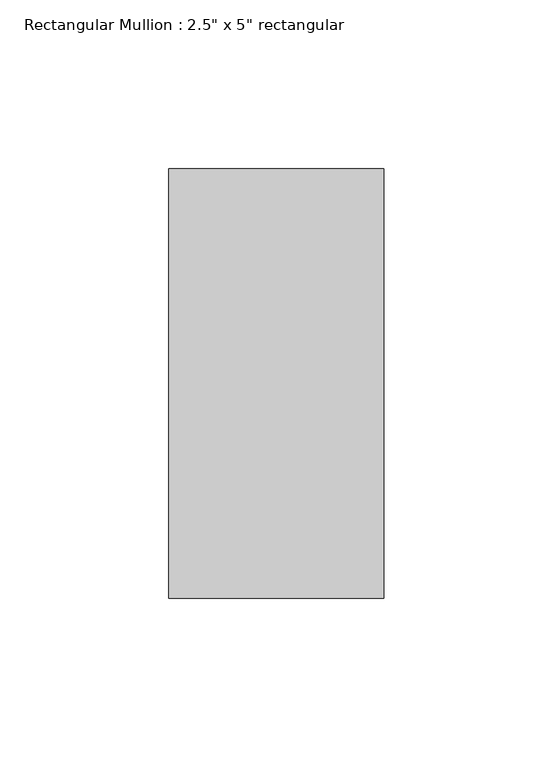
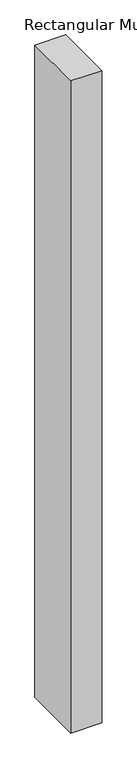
"""IFC4 building model written with IfcOpenShell, lengths in millimetres: member geometry."""

from ifc_helpers import new_model, si_unit, frame, origin, place, context, project, spatial, polyline, outline, extrude, source, transform, mapped, element, save


def member_e33b669c(model_context):
    return source(origin(), model_context, "Body", "SweptSolid", [
        extrude(outline(polyline([(0.0, 50.8), (0.0, -76.2), (-63.5, -76.2), (-63.5, 50.8), (0.0, 50.8)])), frame((0.0, 0.0, -1408.3392857), z_axis=(0.0, 0.0, 1.0), x_axis=(1.0, 0.0, 0.0)), (0.0, 0.0, 1.0), 1408.3392857),
    ])


if __name__ == "__main__":
    model = new_model("IFC4")
    model_context = context("Model", 3, world=origin())
    ifc_project = project(units=[si_unit("LENGTHUNIT", "METRE", prefix="MILLI")], contexts=[model_context])
    site = spatial("IfcSite", under=ifc_project)
    building = spatial("IfcBuilding", under=site)
    placement = place(None, origin())
    member_shape = member_e33b669c(model_context)
    element("IfcMember", 1, ObjectType="Rectangular Mullion : 2.5\" x 5\" rectangular", at=placement, inside=building, context=model_context, shape_type="MappedRepresentation", body=[
        mapped(member_shape, transform((0.0, 0.0, 0.0), x_axis=(1.0, 0.0, 0.0), y_axis=(0.0, 1.0, 0.0), z_axis=(0.0, 0.0, 1.0))),
    ])
    save(model, "model.ifc")
